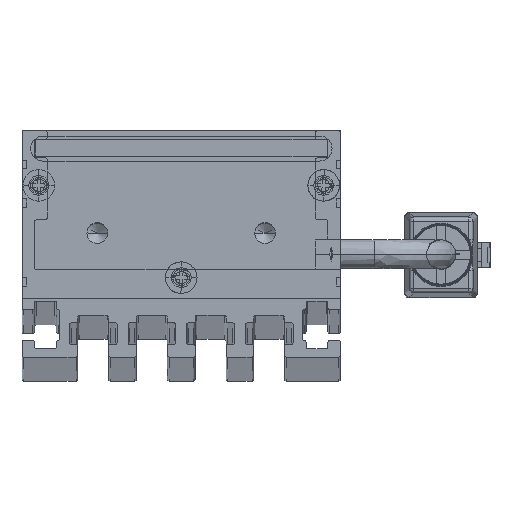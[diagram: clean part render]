
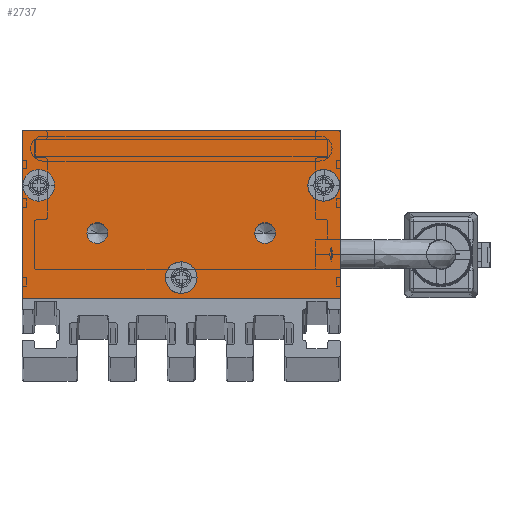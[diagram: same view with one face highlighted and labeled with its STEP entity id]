
A CAD part, top view. The second image highlights one B-rep face of the part: STEP entity #2737.
In plain terms, the highlighted planar face has unit normal (0, 0, 1) as drawn and (0, 0, -1) by its records, which use the part's own axes.
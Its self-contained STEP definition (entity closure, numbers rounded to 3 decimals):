
#76 = DIRECTION ( 'NONE',  ( -1., 0., 0. ) ) ;
#89 = AXIS2_PLACEMENT_3D ( 'NONE', #1753, #6824, #14533 ) ;
#234 = AXIS2_PLACEMENT_3D ( 'NONE', #14136, #2764, #10171 ) ;
#573 = CIRCLE ( 'NONE', #16211, 1.9 ) ;
#781 = CARTESIAN_POINT ( 'NONE',  ( 8.75, 7.8, -2.5 ) ) ;
#813 = FACE_BOUND ( 'NONE', #6896, .T. ) ;
#825 = DIRECTION ( 'NONE',  ( -1., 0., 0. ) ) ;
#869 = VERTEX_POINT ( 'NONE', #14141 ) ;
#885 = VERTEX_POINT ( 'NONE', #6597 ) ;
#988 = LINE ( 'NONE', #11123, #15981 ) ;
#1348 = AXIS2_PLACEMENT_3D ( 'NONE', #12728, #2995, #7752 ) ;
#1602 = EDGE_CURVE ( 'NONE', #6971, #10192, #12164, .T. ) ;
#1753 = CARTESIAN_POINT ( 'NONE',  ( 10., 7.8, -2.5 ) ) ;
#2177 = ORIENTED_EDGE ( 'NONE', *, *, #9530, .F. ) ;
#2182 = AXIS2_PLACEMENT_3D ( 'NONE', #3140, #12201, #825 ) ;
#2284 = DIRECTION ( 'NONE',  ( -1., 0., 0. ) ) ;
#2303 = FACE_BOUND ( 'NONE', #16249, .T. ) ;
#2360 = DIRECTION ( 'NONE',  ( 0., 1., 0. ) ) ;
#2737 = ADVANCED_FACE ( 'NONE', ( #5960, #2303, #813, #11034, #4710, #11119 ), #4876, .F. ) ;
#2764 = DIRECTION ( 'NONE',  ( 0., 0., -1. ) ) ;
#2995 = DIRECTION ( 'NONE',  ( 0., 0., -1. ) ) ;
#3140 = CARTESIAN_POINT ( 'NONE',  ( 10., 7.8, -2.5 ) ) ;
#3310 = CARTESIAN_POINT ( 'NONE',  ( -18.9, 13.5, -2.5 ) ) ;
#3326 = CIRCLE ( 'NONE', #14731, 1.9 ) ;
#3409 = ORIENTED_EDGE ( 'NONE', *, *, #15218, .F. ) ;
#3722 = DIRECTION ( 'NONE',  ( 0., 0., -1. ) ) ;
#3925 = EDGE_CURVE ( 'NONE', #14401, #4374, #4839, .T. ) ;
#4041 = EDGE_CURVE ( 'NONE', #11890, #12244, #988, .T. ) ;
#4249 = EDGE_LOOP ( 'NONE', ( #3409, #4634 ) ) ;
#4309 = CIRCLE ( 'NONE', #2182, 1.25 ) ;
#4374 = VERTEX_POINT ( 'NONE', #4692 ) ;
#4463 = DIRECTION ( 'NONE',  ( -1., 0., 0. ) ) ;
#4500 = EDGE_CURVE ( 'NONE', #11607, #15707, #573, .T. ) ;
#4634 = ORIENTED_EDGE ( 'NONE', *, *, #5777, .F. ) ;
#4670 = ORIENTED_EDGE ( 'NONE', *, *, #13384, .F. ) ;
#4692 = CARTESIAN_POINT ( 'NONE',  ( 15.1, 13.5, -2.5 ) ) ;
#4710 = FACE_BOUND ( 'NONE', #6632, .T. ) ;
#4839 = CIRCLE ( 'NONE', #8559, 1.9 ) ;
#4876 = PLANE ( 'NONE',  #11146 ) ;
#5115 = CIRCLE ( 'NONE', #89, 1.25 ) ;
#5143 = EDGE_LOOP ( 'NONE', ( #14163, #10995, #2177, #12939 ) ) ;
#5236 = EDGE_CURVE ( 'NONE', #10192, #6971, #7228, .T. ) ;
#5396 = DIRECTION ( 'NONE',  ( 0., 0., -1. ) ) ;
#5410 = VERTEX_POINT ( 'NONE', #9511 ) ;
#5456 = AXIS2_PLACEMENT_3D ( 'NONE', #12692, #3722, #15029 ) ;
#5777 = EDGE_CURVE ( 'NONE', #10557, #14900, #5115, .T. ) ;
#5901 = AXIS2_PLACEMENT_3D ( 'NONE', #9792, #16181, #9876 ) ;
#5933 = VECTOR ( 'NONE', #14939, 1000. ) ;
#5960 = FACE_BOUND ( 'NONE', #12850, .T. ) ;
#6048 = LINE ( 'NONE', #11127, #5933 ) ;
#6299 = EDGE_CURVE ( 'NONE', #885, #11890, #6048, .T. ) ;
#6380 = CARTESIAN_POINT ( 'NONE',  ( -17., 13.5, -2.5 ) ) ;
#6597 = CARTESIAN_POINT ( 'NONE',  ( 19., 20., -2.5 ) ) ;
#6632 = EDGE_LOOP ( 'NONE', ( #14818, #10902 ) ) ;
#6652 = CARTESIAN_POINT ( 'NONE',  ( 0., 2.5, -2.5 ) ) ;
#6824 = DIRECTION ( 'NONE',  ( 0., 0., -1. ) ) ;
#6896 = EDGE_LOOP ( 'NONE', ( #11388, #14784 ) ) ;
#6971 = VERTEX_POINT ( 'NONE', #10735 ) ;
#7043 = DIRECTION ( 'NONE',  ( 1., 0., 0. ) ) ;
#7047 = DIRECTION ( 'NONE',  ( 0., 0., -1. ) ) ;
#7189 = ORIENTED_EDGE ( 'NONE', *, *, #4500, .F. ) ;
#7228 = CIRCLE ( 'NONE', #5901, 1.25 ) ;
#7476 = CARTESIAN_POINT ( 'NONE',  ( 11.25, 7.8, -2.5 ) ) ;
#7499 = CARTESIAN_POINT ( 'NONE',  ( -11.25, 7.8, -2.5 ) ) ;
#7724 = CIRCLE ( 'NONE', #1348, 1.9 ) ;
#7752 = DIRECTION ( 'NONE',  ( -1., 0., 0. ) ) ;
#7955 = LINE ( 'NONE', #13180, #13689 ) ;
#8559 = AXIS2_PLACEMENT_3D ( 'NONE', #10466, #7047, #4463 ) ;
#8703 = EDGE_CURVE ( 'NONE', #869, #13097, #10778, .T. ) ;
#9511 = CARTESIAN_POINT ( 'NONE',  ( 19., 0., -2.5 ) ) ;
#9530 = EDGE_CURVE ( 'NONE', #5410, #885, #11260, .T. ) ;
#9725 = CARTESIAN_POINT ( 'NONE',  ( -1.9, 2.5, -2.5 ) ) ;
#9784 = DIRECTION ( 'NONE',  ( 0., 0., 1. ) ) ;
#9792 = CARTESIAN_POINT ( 'NONE',  ( -10., 7.8, -2.5 ) ) ;
#9876 = DIRECTION ( 'NONE',  ( -1., 0., 0. ) ) ;
#10171 = DIRECTION ( 'NONE',  ( -1., 0., 0. ) ) ;
#10192 = VERTEX_POINT ( 'NONE', #7499 ) ;
#10326 = EDGE_CURVE ( 'NONE', #15707, #11607, #3326, .T. ) ;
#10466 = CARTESIAN_POINT ( 'NONE',  ( 17., 13.5, -2.5 ) ) ;
#10477 = DIRECTION ( 'NONE',  ( -1., 0., 0. ) ) ;
#10557 = VERTEX_POINT ( 'NONE', #7476 ) ;
#10643 = EDGE_CURVE ( 'NONE', #12244, #5410, #7955, .T. ) ;
#10735 = CARTESIAN_POINT ( 'NONE',  ( -8.75, 7.8, -2.5 ) ) ;
#10778 = CIRCLE ( 'NONE', #5456, 1.9 ) ;
#10902 = ORIENTED_EDGE ( 'NONE', *, *, #1602, .F. ) ;
#10995 = ORIENTED_EDGE ( 'NONE', *, *, #6299, .F. ) ;
#11008 = CARTESIAN_POINT ( 'NONE',  ( 19., 20., -2.5 ) ) ;
#11024 = CARTESIAN_POINT ( 'NONE',  ( 1.9, 2.5, -2.5 ) ) ;
#11034 = FACE_BOUND ( 'NONE', #4249, .T. ) ;
#11119 = FACE_OUTER_BOUND ( 'NONE', #5143, .T. ) ;
#11123 = CARTESIAN_POINT ( 'NONE',  ( -19., 20., -2.5 ) ) ;
#11127 = CARTESIAN_POINT ( 'NONE',  ( -19., 20., -2.5 ) ) ;
#11146 = AXIS2_PLACEMENT_3D ( 'NONE', #13346, #9784, #7043 ) ;
#11200 = AXIS2_PLACEMENT_3D ( 'NONE', #6380, #11443, #76 ) ;
#11260 = LINE ( 'NONE', #11008, #14746 ) ;
#11388 = ORIENTED_EDGE ( 'NONE', *, *, #14285, .F. ) ;
#11443 = DIRECTION ( 'NONE',  ( 0., 0., -1. ) ) ;
#11519 = CARTESIAN_POINT ( 'NONE',  ( -19., 0., -2.5 ) ) ;
#11607 = VERTEX_POINT ( 'NONE', #9725 ) ;
#11890 = VERTEX_POINT ( 'NONE', #15600 ) ;
#12164 = CIRCLE ( 'NONE', #234, 1.25 ) ;
#12201 = DIRECTION ( 'NONE',  ( 0., 0., -1. ) ) ;
#12244 = VERTEX_POINT ( 'NONE', #11519 ) ;
#12328 = ORIENTED_EDGE ( 'NONE', *, *, #10326, .F. ) ;
#12692 = CARTESIAN_POINT ( 'NONE',  ( -17., 13.5, -2.5 ) ) ;
#12728 = CARTESIAN_POINT ( 'NONE',  ( 17., 13.5, -2.5 ) ) ;
#12850 = EDGE_LOOP ( 'NONE', ( #4670, #13661 ) ) ;
#12939 = ORIENTED_EDGE ( 'NONE', *, *, #10643, .F. ) ;
#13097 = VERTEX_POINT ( 'NONE', #3310 ) ;
#13180 = CARTESIAN_POINT ( 'NONE',  ( -19., 0., -2.5 ) ) ;
#13251 = CARTESIAN_POINT ( 'NONE',  ( 18.9, 13.5, -2.5 ) ) ;
#13346 = CARTESIAN_POINT ( 'NONE',  ( 0., 0., -2.5 ) ) ;
#13384 = EDGE_CURVE ( 'NONE', #4374, #14401, #7724, .T. ) ;
#13561 = CIRCLE ( 'NONE', #11200, 1.9 ) ;
#13661 = ORIENTED_EDGE ( 'NONE', *, *, #3925, .F. ) ;
#13689 = VECTOR ( 'NONE', #15673, 1000. ) ;
#14136 = CARTESIAN_POINT ( 'NONE',  ( -10., 7.8, -2.5 ) ) ;
#14141 = CARTESIAN_POINT ( 'NONE',  ( -15.1, 13.5, -2.5 ) ) ;
#14163 = ORIENTED_EDGE ( 'NONE', *, *, #4041, .F. ) ;
#14285 = EDGE_CURVE ( 'NONE', #13097, #869, #13561, .T. ) ;
#14401 = VERTEX_POINT ( 'NONE', #13251 ) ;
#14533 = DIRECTION ( 'NONE',  ( -1., 0., 0. ) ) ;
#14657 = CARTESIAN_POINT ( 'NONE',  ( 0., 2.5, -2.5 ) ) ;
#14731 = AXIS2_PLACEMENT_3D ( 'NONE', #6652, #5396, #10477 ) ;
#14740 = DIRECTION ( 'NONE',  ( 0., 0., -1. ) ) ;
#14746 = VECTOR ( 'NONE', #2360, 1000. ) ;
#14784 = ORIENTED_EDGE ( 'NONE', *, *, #8703, .F. ) ;
#14818 = ORIENTED_EDGE ( 'NONE', *, *, #5236, .F. ) ;
#14900 = VERTEX_POINT ( 'NONE', #781 ) ;
#14939 = DIRECTION ( 'NONE',  ( -1., 0., 0. ) ) ;
#15029 = DIRECTION ( 'NONE',  ( -1., 0., 0. ) ) ;
#15218 = EDGE_CURVE ( 'NONE', #14900, #10557, #4309, .T. ) ;
#15600 = CARTESIAN_POINT ( 'NONE',  ( -19., 20., -2.5 ) ) ;
#15673 = DIRECTION ( 'NONE',  ( 1., 0., 0. ) ) ;
#15707 = VERTEX_POINT ( 'NONE', #11024 ) ;
#15981 = VECTOR ( 'NONE', #16020, 1000. ) ;
#16020 = DIRECTION ( 'NONE',  ( 0., -1., 0. ) ) ;
#16181 = DIRECTION ( 'NONE',  ( 0., 0., -1. ) ) ;
#16211 = AXIS2_PLACEMENT_3D ( 'NONE', #14657, #14740, #2284 ) ;
#16249 = EDGE_LOOP ( 'NONE', ( #7189, #12328 ) ) ;
